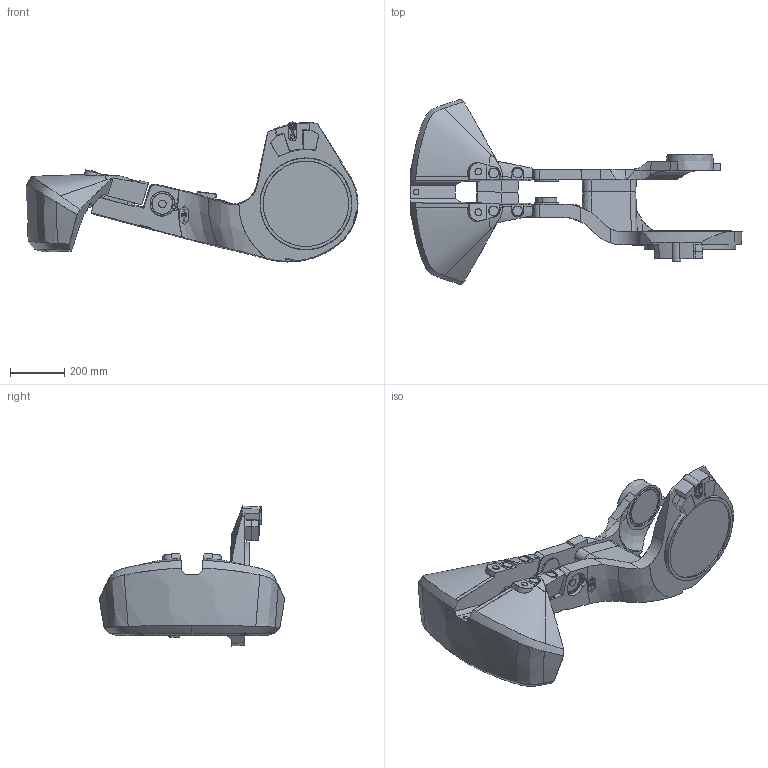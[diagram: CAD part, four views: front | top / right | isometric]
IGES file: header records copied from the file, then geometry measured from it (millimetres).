
Start section: SolidWorks IGES file using analytic representation for surfaces
Global section: file name: C:\Users\SEJAOLS6\OneDrive - ABB\Documents\SAP\7710\7710_Lightweight_models\IRB7710-LID-SW_280kg-350_OC_01_SW_J\IRB7710-LID-SW_280kg_350_OC_01_IGES_J\IRB7710_All_OC_00_LINKARM_CAD.igs; native system: SolidWorks 2024; preprocessor: SolidWorks 2024; author: SEJAOLS6; date: 260126.162313; units: millimetre
Bounding box: 1225.57 x 685.64 x 517.09 mm (x, y, z)
Surface area: 1898899.8 mm2 (no closed solid volume)
Topology: 0 solids, 0 shells, 551 faces, 11267 edges, 11263 vertices
Faces by surface type: bspline 340, revolution 211
